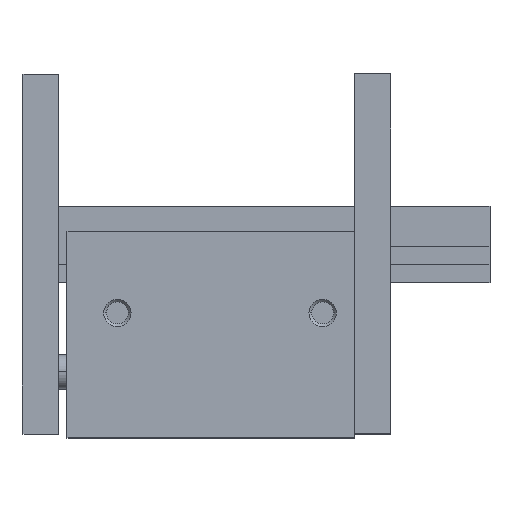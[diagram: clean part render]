
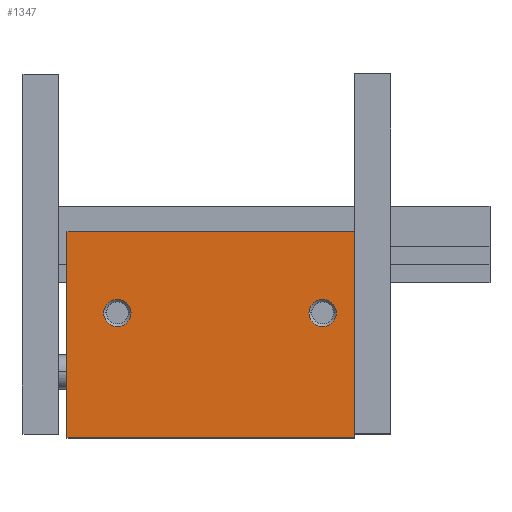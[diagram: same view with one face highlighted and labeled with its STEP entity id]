
A CAD part, top view. The second image highlights one B-rep face of the part: STEP entity #1347.
In plain terms, the highlighted planar face has unit normal (0, 0, 1) as drawn and (0, 0, -1) by its records, which use the part's own axes.
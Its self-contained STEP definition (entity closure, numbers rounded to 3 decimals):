
#169 = CARTESIAN_POINT ( 'NONE',  ( 44.323, 3.886, -13.487 ) ) ;
#202 = AXIS2_PLACEMENT_3D ( 'NONE', #1619, #5860, #2326 ) ;
#622 = CARTESIAN_POINT ( 'NONE',  ( 8.128, 3.886, -13.487 ) ) ;
#809 = CARTESIAN_POINT ( 'NONE',  ( 5.715, 3.886, -13.487 ) ) ;
#900 = VERTEX_POINT ( 'NONE', #622 ) ;
#1013 = CARTESIAN_POINT ( 'NONE',  ( 41.91, 3.886, -13.487 ) ) ;
#1192 = LINE ( 'NONE', #1714, #8571 ) ;
#1257 = CARTESIAN_POINT ( 'NONE',  ( 5.715, 3.886, -13.487 ) ) ;
#1347 = ADVANCED_FACE ( 'NONE', ( #1772, #3667, #5803 ), #3024, .F. ) ;
#1437 = VERTEX_POINT ( 'NONE', #2416 ) ;
#1491 = VERTEX_POINT ( 'NONE', #1800 ) ;
#1513 = DIRECTION ( 'NONE',  ( 1., 0., 0. ) ) ;
#1619 = CARTESIAN_POINT ( 'NONE',  ( 50.8, -18.161, -13.487 ) ) ;
#1671 = AXIS2_PLACEMENT_3D ( 'NONE', #1257, #6249, #1976 ) ;
#1714 = CARTESIAN_POINT ( 'NONE',  ( 50.8, 18.161, -13.487 ) ) ;
#1721 = DIRECTION ( 'NONE',  ( 1., 0., 0. ) ) ;
#1761 = EDGE_CURVE ( 'NONE', #7045, #1437, #4092, .T. ) ;
#1772 = FACE_BOUND ( 'NONE', #6533, .T. ) ;
#1800 = CARTESIAN_POINT ( 'NONE',  ( 50.8, -18.161, -13.487 ) ) ;
#1869 = CIRCLE ( 'NONE', #8708, 2.413 ) ;
#1880 = CARTESIAN_POINT ( 'NONE',  ( 50.8, -18.161, -13.487 ) ) ;
#1915 = EDGE_CURVE ( 'NONE', #6047, #6180, #3219, .T. ) ;
#1976 = DIRECTION ( 'NONE',  ( 1., 0., 0. ) ) ;
#2026 = DIRECTION ( 'NONE',  ( 0., 1., 0. ) ) ;
#2169 = VECTOR ( 'NONE', #7098, 1000. ) ;
#2219 = VECTOR ( 'NONE', #2026, 1000. ) ;
#2326 = DIRECTION ( 'NONE',  ( 1., 0., 0. ) ) ;
#2416 = CARTESIAN_POINT ( 'NONE',  ( 0., 18.161, -13.487 ) ) ;
#2442 = ORIENTED_EDGE ( 'NONE', *, *, #5855, .F. ) ;
#2599 = LINE ( 'NONE', #3541, #2169 ) ;
#2680 = CARTESIAN_POINT ( 'NONE',  ( 3.302, 3.886, -13.487 ) ) ;
#3024 = PLANE ( 'NONE',  #202 ) ;
#3154 = EDGE_CURVE ( 'NONE', #6180, #6047, #1869, .T. ) ;
#3176 = LINE ( 'NONE', #1880, #8650 ) ;
#3194 = AXIS2_PLACEMENT_3D ( 'NONE', #3586, #8576, #4294 ) ;
#3219 = CIRCLE ( 'NONE', #3194, 2.413 ) ;
#3541 = CARTESIAN_POINT ( 'NONE',  ( 50.8, -18.161, -13.487 ) ) ;
#3586 = CARTESIAN_POINT ( 'NONE',  ( 41.91, 3.886, -13.487 ) ) ;
#3667 = FACE_OUTER_BOUND ( 'NONE', #7325, .T. ) ;
#3706 = EDGE_CURVE ( 'NONE', #4138, #1437, #1192, .T. ) ;
#3936 = ORIENTED_EDGE ( 'NONE', *, *, #1761, .T. ) ;
#4092 = LINE ( 'NONE', #7702, #2219 ) ;
#4138 = VERTEX_POINT ( 'NONE', #4414 ) ;
#4294 = DIRECTION ( 'NONE',  ( 1., 0., 0. ) ) ;
#4318 = CARTESIAN_POINT ( 'NONE',  ( 0., -18.161, -13.487 ) ) ;
#4414 = CARTESIAN_POINT ( 'NONE',  ( 50.8, 18.161, -13.487 ) ) ;
#4717 = DIRECTION ( 'NONE',  ( -1., 0., 0. ) ) ;
#5022 = EDGE_CURVE ( 'NONE', #900, #8493, #8663, .T. ) ;
#5276 = CARTESIAN_POINT ( 'NONE',  ( 39.497, 3.886, -13.487 ) ) ;
#5496 = CIRCLE ( 'NONE', #8313, 2.413 ) ;
#5792 = DIRECTION ( 'NONE',  ( 0., 0., 1. ) ) ;
#5803 = FACE_BOUND ( 'NONE', #7218, .T. ) ;
#5855 = EDGE_CURVE ( 'NONE', #1491, #4138, #2599, .T. ) ;
#5860 = DIRECTION ( 'NONE',  ( 0., 0., 1. ) ) ;
#5899 = ORIENTED_EDGE ( 'NONE', *, *, #3706, .F. ) ;
#5932 = EDGE_CURVE ( 'NONE', #8493, #900, #5496, .T. ) ;
#5994 = DIRECTION ( 'NONE',  ( 0., 0., 1. ) ) ;
#6047 = VERTEX_POINT ( 'NONE', #169 ) ;
#6180 = VERTEX_POINT ( 'NONE', #5276 ) ;
#6249 = DIRECTION ( 'NONE',  ( 0., 0., 1. ) ) ;
#6533 = EDGE_LOOP ( 'NONE', ( #9222, #8122 ) ) ;
#7045 = VERTEX_POINT ( 'NONE', #4318 ) ;
#7098 = DIRECTION ( 'NONE',  ( 0., 1., 0. ) ) ;
#7218 = EDGE_LOOP ( 'NONE', ( #8373, #7869 ) ) ;
#7325 = EDGE_LOOP ( 'NONE', ( #3936, #5899, #2442, #8435 ) ) ;
#7368 = EDGE_CURVE ( 'NONE', #1491, #7045, #3176, .T. ) ;
#7702 = CARTESIAN_POINT ( 'NONE',  ( 0., -18.161, -13.487 ) ) ;
#7869 = ORIENTED_EDGE ( 'NONE', *, *, #1915, .T. ) ;
#8122 = ORIENTED_EDGE ( 'NONE', *, *, #5022, .T. ) ;
#8313 = AXIS2_PLACEMENT_3D ( 'NONE', #809, #5792, #1513 ) ;
#8373 = ORIENTED_EDGE ( 'NONE', *, *, #3154, .T. ) ;
#8435 = ORIENTED_EDGE ( 'NONE', *, *, #7368, .T. ) ;
#8493 = VERTEX_POINT ( 'NONE', #2680 ) ;
#8571 = VECTOR ( 'NONE', #8873, 1000. ) ;
#8576 = DIRECTION ( 'NONE',  ( 0., 0., 1. ) ) ;
#8650 = VECTOR ( 'NONE', #4717, 1000. ) ;
#8663 = CIRCLE ( 'NONE', #1671, 2.413 ) ;
#8708 = AXIS2_PLACEMENT_3D ( 'NONE', #1013, #5994, #1721 ) ;
#8873 = DIRECTION ( 'NONE',  ( -1., 0., 0. ) ) ;
#9222 = ORIENTED_EDGE ( 'NONE', *, *, #5932, .T. ) ;
